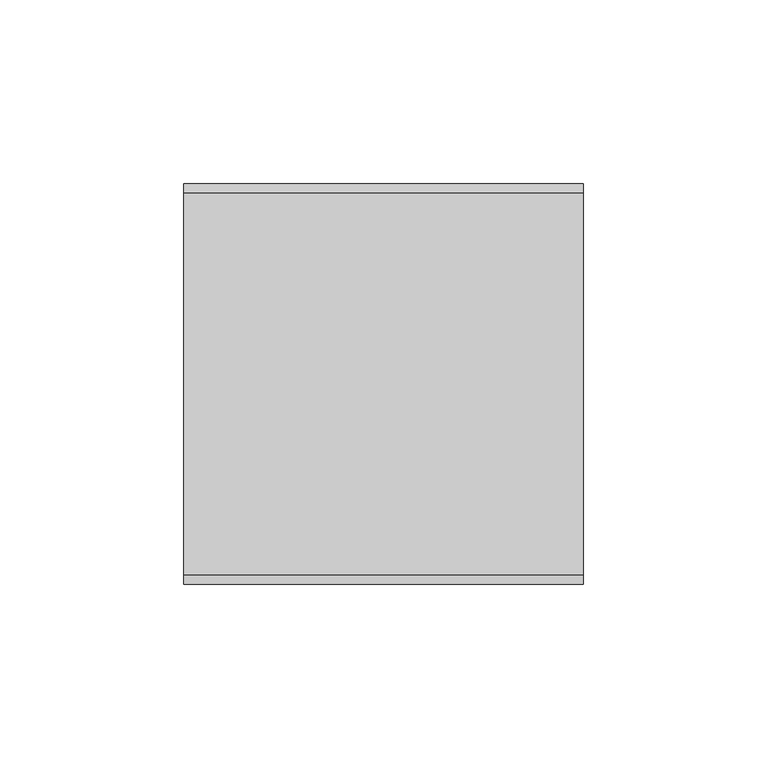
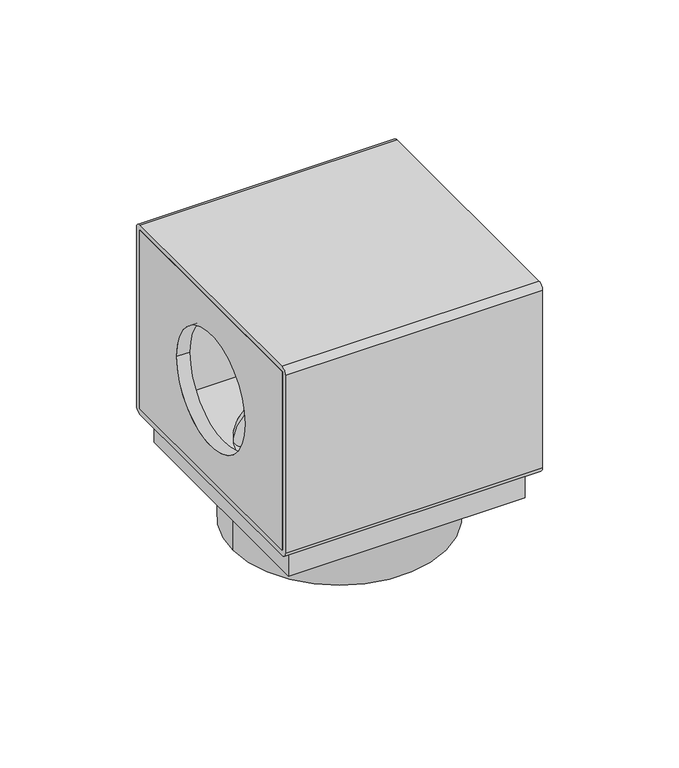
"""IFC4 building model written with IfcOpenShell, lengths in millimetres: proxy geometry, Electrical_Installation_Hager_VE-EE_Pedestal-box-2 : GB pedestal box 2 inst. fields iron gray."""

from ifc_helpers import new_model, si_unit, point, frame, frame_2d, origin, origin_with_axes, origin_2d, place, context, project, spatial, polyline, circle_curve, trimmed, segment, composite_curve, outline, extrude, source, transform, mapped, element, save
from ifc_brep_helpers import plane_surface, cylinder_surface, revolved_surface, advanced_brep


def electrical_fixtures_bc675c06(model_context):
    return source(origin(), model_context, "Body", "SolidModel", [
        extrude(outline(polyline([(52.25, 94.7), (52.25, 14.8), (-52.25, 14.8), (-52.25, 94.7), (52.25, 94.7)]), holes=[composite_curve([segment(trimmed(circle_curve(frame_2d((0.0, 54.75)), 25.0), [point((-25.0, 54.75))], [point((25.0, 54.75))], True, "CARTESIAN"), True, "CONTINUOUS"), segment(trimmed(circle_curve(frame_2d((0.0, 54.75)), 25.0), [point((25.0, 54.75))], [point((-25.0, 54.75))], True, "CARTESIAN"), True, "CONTINUOUS")], self_intersect=False)]), frame((-54.4, 0.0, 0.0), z_axis=(1.0, 0.0, 0.0), x_axis=(0.0, 1.0, 0.0)), (0.0, 0.0, 1.0), 5.5),
        extrude(outline(polyline([(52.25, 94.7), (52.25, 14.8), (-52.25, 14.8), (-52.25, 94.7), (52.25, 94.7)]), holes=[composite_curve([segment(trimmed(circle_curve(frame_2d((0.0, 54.75)), 25.0), [point((-25.0, 54.75))], [point((25.0, 54.75))], True, "CARTESIAN"), True, "CONTINUOUS"), segment(trimmed(circle_curve(frame_2d((0.0, 54.75)), 25.0), [point((25.0, 54.75))], [point((-25.0, 54.75))], True, "CARTESIAN"), True, "CONTINUOUS")], self_intersect=False)]), frame((48.9, 0.0, 0.0), z_axis=(1.0, 0.0, 0.0), x_axis=(0.0, 1.0, 0.0)), (0.0, 0.0, 1.0), 5.5),
        extrude(outline(composite_curve([segment(trimmed(circle_curve(origin_2d(), 45.0), [point((-45.0, 0.0))], [point((45.0, 0.0))], False, "CARTESIAN"), True, "CONTINUOUS"), segment(trimmed(circle_curve(origin_2d(), 45.0), [point((45.0, 0.0))], [point((-45.0, 0.0))], False, "CARTESIAN"), True, "CONTINUOUS")], self_intersect=False), holes=[composite_curve([segment(trimmed(circle_curve(origin_2d(), 27.5), [point((-27.5, 0.0))], [point((27.5, 0.0))], True, "CARTESIAN"), True, "CONTINUOUS"), segment(trimmed(circle_curve(origin_2d(), 27.5), [point((27.5, 0.0))], [point((-27.5, 0.0))], True, "CARTESIAN"), True, "CONTINUOUS")], self_intersect=False)]), frame((0.0, 0.0, -20.0), z_axis=(0.0, 0.0, 1.0), x_axis=(1.0, 0.0, 0.0)), (0.0, 0.0, 1.0), 20.0),
        advanced_brep(
        [(54.4, -52.05, 97.0), (54.4, -54.55, 94.5), (54.4, -54.55, 15.0), (54.4, -52.05, 12.5), (54.4, 52.05, 12.5), (54.4, 54.55, 15.0), (54.4, 54.55, 94.5), (54.4, 52.05, 97.0), (54.4, 52.25, 94.7), (54.4, 52.25, 14.8), (54.4, -52.25, 14.8), (54.4, -52.25, 94.7), (-54.4, -52.05, 97.0), (-54.4, 52.05, 97.0), (-54.4, 54.55, 94.5), (-54.4, 54.55, 15.0), (-54.4, 52.05, 12.5), (-54.4, -52.05, 12.5), (-54.4, -54.55, 15.0), (-54.4, -54.55, 94.5), (-54.4, 52.25, 94.7), (-54.4, -52.25, 94.7), (-54.4, -52.25, 14.8), (-54.4, 52.25, 14.8), (-39.0, 0.0, 12.5), (39.0, 0.0, 12.5), (39.0, 0.0, 14.8), (-39.0, 0.0, 14.8)],
        [
            (0, 1, circle_curve(frame((54.4, -52.05, 94.5), z_axis=(1.0, 0.0, 0.0), x_axis=(0.0, 1.0, 0.0)), 2.5)),
            (1, 2),
            (2, 3, circle_curve(frame((54.4, -52.05, 15.0), z_axis=(1.0, 0.0, 0.0), x_axis=(0.0, 1.0, 0.0)), 2.5)),
            (3, 4),
            (4, 5, circle_curve(frame((54.4, 52.05, 15.0), z_axis=(1.0, 0.0, 0.0), x_axis=(0.0, 1.0, 0.0)), 2.5)),
            (5, 6),
            (6, 7, circle_curve(frame((54.4, 52.05, 94.5), z_axis=(1.0, 0.0, 0.0), x_axis=(0.0, 1.0, 0.0)), 2.5)),
            (7, 0),
            (8, 9),
            (9, 10),
            (10, 11),
            (11, 8),
            (12, 13),
            (13, 14, circle_curve(frame((-54.4, 52.05, 94.5), z_axis=(-1.0, 0.0, 0.0), x_axis=(0.0, 1.0, 0.0)), 2.5)),
            (14, 15),
            (15, 16, circle_curve(frame((-54.4, 52.05, 15.0), z_axis=(-1.0, 0.0, 0.0), x_axis=(0.0, 1.0, 0.0)), 2.5)),
            (16, 17),
            (17, 18, circle_curve(frame((-54.4, -52.05, 15.0), z_axis=(-1.0, 0.0, 0.0), x_axis=(0.0, 1.0, 0.0)), 2.5)),
            (18, 19),
            (19, 12, circle_curve(frame((-54.4, -52.05, 94.5), z_axis=(-1.0, 0.0, 0.0), x_axis=(0.0, 1.0, 0.0)), 2.5)),
            (20, 21),
            (21, 22),
            (22, 23),
            (23, 20),
            (0, 12),
            (19, 1),
            (18, 2),
            (17, 3),
            (16, 4),
            (24, 25, circle_curve(frame((0.0, 0.0, 12.5), z_axis=(0.0, 0.0, 1.0), x_axis=(1.0, 0.0, 0.0)), 39.0)),
            (25, 24, circle_curve(frame((0.0, 0.0, 12.5), z_axis=(0.0, 0.0, 1.0), x_axis=(1.0, 0.0, 0.0)), 39.0)),
            (15, 5),
            (14, 6),
            (13, 7),
            (8, 20),
            (23, 9),
            (22, 10),
            (26, 27, circle_curve(frame((0.0, 0.0, 14.8), z_axis=(0.0, 0.0, -1.0), x_axis=(1.0, 0.0, 0.0)), 39.0)),
            (27, 26, circle_curve(frame((0.0, 0.0, 14.8), z_axis=(0.0, 0.0, -1.0), x_axis=(1.0, 0.0, 0.0)), 39.0)),
            (21, 11),
            (26, 25),
            (24, 27),
        ],
        [
            plane_surface(frame((54.4, -49.55, 94.5), z_axis=(1.0, 0.0, 0.0), x_axis=(0.0, 0.0, 1.0))),
            plane_surface(frame((-54.4, -49.55, 94.5), z_axis=(-1.0, 0.0, 0.0), x_axis=(0.0, 0.0, -1.0))),
            cylinder_surface(frame((-54.4, -52.05, 94.5), z_axis=(1.0, 0.0, 0.0), x_axis=(0.0, 1.0, 0.0)), 2.5),
            plane_surface(frame((54.4, -54.55, 94.5), z_axis=(0.0, -1.0, 0.0), x_axis=(-1.0, 0.0, 0.0))),
            cylinder_surface(frame((-54.4, -52.05, 15.0), z_axis=(1.0, 0.0, 0.0), x_axis=(0.0, 1.0, 0.0)), 2.5),
            plane_surface(frame((54.4, -52.05, 12.5), z_axis=(0.0, 0.0, -1.0), x_axis=(-1.0, 0.0, 0.0))),
            cylinder_surface(frame((-54.4, 52.05, 15.0), z_axis=(1.0, 0.0, 0.0), x_axis=(0.0, 1.0, 0.0)), 2.5),
            plane_surface(frame((54.4, 54.55, 15.0), z_axis=(0.0, 1.0, 0.0), x_axis=(-1.0, 0.0, 0.0))),
            cylinder_surface(frame((-54.4, 52.05, 94.5), z_axis=(1.0, 0.0, 0.0), x_axis=(0.0, 1.0, 0.0)), 2.5),
            plane_surface(frame((54.4, 52.05, 97.0), z_axis=(0.0, 0.0, 1.0), x_axis=(-1.0, 0.0, 0.0))),
            plane_surface(frame((54.4, 52.25, 94.7), z_axis=(0.0, -1.0, 0.0), x_axis=(-1.0, 0.0, 0.0))),
            plane_surface(frame((54.4, 52.25, 14.8), z_axis=(0.0, 0.0, 1.0), x_axis=(-1.0, 0.0, 0.0))),
            plane_surface(frame((54.4, -52.25, 14.8), z_axis=(0.0, 1.0, 0.0), x_axis=(-1.0, 0.0, 0.0))),
            plane_surface(frame((54.4, -52.25, 94.7), z_axis=(0.0, 0.0, -1.0), x_axis=(-1.0, 0.0, 0.0))),
            revolved_surface(polyline([(39.0, 0.0, 14.8), (39.0, 0.0, 12.5)]), (0.0, 0.0, 12.5), (0.0, 0.0, 1.0)),
        ],
        [
            (0, [[1, 2, 3, 4, 5, 6, 7, 8], [9, 10, 11, 12]]),
            (1, [[13, 14, 15, 16, 17, 18, 19, 20], [21, 22, 23, 24]]),
            (2, [[-1, 25, -20, 26]]),
            (3, [[-2, -26, -19, 27]]),
            (4, [[-3, -27, -18, 28]]),
            (5, [[-4, -28, -17, 29], [30, 31]]),
            (6, [[-5, -29, -16, 32]]),
            (7, [[-6, -32, -15, 33]]),
            (8, [[-7, -33, -14, 34]]),
            (9, [[-8, -34, -13, -25]]),
            (10, [[-9, 35, -24, 36]]),
            (11, [[-10, -36, -23, 37], [38, 39]]),
            (12, [[-11, -37, -22, 40]]),
            (13, [[-12, -40, -21, -35]]),
            (14, [[41, -30, 42, -38]]),
            (14, [[-41, -39, -42, -31]]),
        ],
    ),
        extrude(outline(polyline([(1.25, 52.25), (1.25, -52.25), (-1.25, -52.25), (-1.25, 52.25), (1.25, 52.25)])), frame((0.0, 0.0, 14.8), z_axis=(0.0, 0.0, 1.0), x_axis=(1.0, 0.0, 0.0)), (0.0, 0.0, 1.0), 79.9),
        extrude(outline(polyline([(50.0, -49.3), (-50.0, -49.3), (-50.0, 49.3), (50.0, 49.3), (50.0, -49.3)]), holes=[composite_curve([segment(trimmed(circle_curve(frame_2d((-28.5912964, 0.7333267)), 5.0), [point((-24.4955362, 3.6012089))], [point((-25.7234143, -3.3624335))], False, "CARTESIAN"), True, "CONTINUOUS"), segment(polyline([(-25.7234143, -3.3624335), (-34.1678222, -9.2752716)]), True, "CONTINUOUS"), segment(trimmed(circle_curve(frame_2d((-31.29994, -13.3710318)), 5.0), [point((-34.1678222, -9.2752716))], [point((-35.8979613, -15.335262))], True, "CARTESIAN"), True, "CONTINUOUS"), segment(trimmed(circle_curve(origin_2d(), 39.0363149), [point((-35.8979613, -15.335262))], [point((-26.6882584, -28.4880808))], True, "CARTESIAN"), True, "CONTINUOUS"), segment(trimmed(circle_curve(frame_2d((-23.2698699, -24.8391604)), 5.0), [point((-26.6882584, -28.4880808))], [point((-20.4019877, -28.9349206))], True, "CARTESIAN"), True, "CONTINUOUS"), segment(polyline([(-20.4019877, -28.9349206), (-11.9575798, -23.0220826)]), True, "CONTINUOUS"), segment(trimmed(circle_curve(frame_2d((-9.0896976, -27.1178428)), 5.0), [point((-11.9575798, -23.0220826))], [point((-4.9939374, -24.2499606))], False, "CARTESIAN"), True, "CONTINUOUS"), segment(polyline([(-4.9939374, -24.2499606), (3.2975997, -36.0915028)]), True, "CONTINUOUS"), segment(trimmed(circle_curve(frame_2d((7.3933599, -33.2236206)), 5.0), [point((3.2975997, -36.0915028))], [point((8.4794587, -38.1042342))], True, "CARTESIAN"), True, "CONTINUOUS"), segment(trimmed(circle_curve(origin_2d(), 39.0363149), [point((8.4794587, -38.1042342))], [point((32.906122, -21.0005004))], True, "CARTESIAN"), True, "CONTINUOUS"), segment(trimmed(circle_curve(frame_2d((28.6913131, -18.3106332)), 5.0), [point((32.906122, -21.0005004))], [point((32.7870733, -15.442751))], True, "CARTESIAN"), True, "CONTINUOUS"), segment(polyline([(32.7870733, -15.442751), (24.4955362, -3.6012089)]), True, "CONTINUOUS"), segment(trimmed(circle_curve(frame_2d((28.5912964, -0.7333267)), 5.0), [point((24.4955362, -3.6012089))], [point((25.7234143, 3.3624335))], False, "CARTESIAN"), True, "CONTINUOUS"), segment(polyline([(25.7234143, 3.3624335), (34.1678222, 9.2752716)]), True, "CONTINUOUS"), segment(trimmed(circle_curve(frame_2d((31.29994, 13.3710318)), 5.0), [point((34.1678222, 9.2752716))], [point((35.8979613, 15.335262))], True, "CARTESIAN"), True, "CONTINUOUS"), segment(trimmed(circle_curve(origin_2d(), 39.0363149), [point((35.8979613, 15.335262))], [point((26.6882584, 28.4880808))], True, "CARTESIAN"), True, "CONTINUOUS"), segment(trimmed(circle_curve(frame_2d((23.2698699, 24.8391604)), 5.0), [point((26.6882584, 28.4880808))], [point((20.4019877, 28.9349206))], True, "CARTESIAN"), True, "CONTINUOUS"), segment(polyline([(20.4019877, 28.9349206), (11.9575798, 23.0220826)]), True, "CONTINUOUS"), segment(trimmed(circle_curve(frame_2d((9.0896976, 27.1178428)), 5.0), [point((11.9575798, 23.0220826))], [point((4.9939374, 24.2499606))], False, "CARTESIAN"), True, "CONTINUOUS"), segment(polyline([(4.9939374, 24.2499606), (-3.2975997, 36.0915028)]), True, "CONTINUOUS"), segment(trimmed(circle_curve(frame_2d((-7.3933599, 33.2236206)), 5.0), [point((-3.2975997, 36.0915028))], [point((-8.4794587, 38.1042342))], True, "CARTESIAN"), True, "CONTINUOUS"), segment(trimmed(circle_curve(origin_2d(), 39.0363149), [point((-8.4794587, 38.1042342))], [point((-32.906122, 21.0005004))], True, "CARTESIAN"), True, "CONTINUOUS"), segment(trimmed(circle_curve(frame_2d((-28.6913131, 18.3106332)), 5.0), [point((-32.906122, 21.0005004))], [point((-32.7870733, 15.442751))], True, "CARTESIAN"), True, "CONTINUOUS"), segment(polyline([(-32.7870733, 15.442751), (-24.4955362, 3.6012089)]), True, "CONTINUOUS")], self_intersect=False)]), origin_with_axes(), (0.0, 0.0, 1.0), 12.5),
    ])


if __name__ == "__main__":
    model = new_model("IFC4")
    model_context = context("Model", 3, world=origin())
    ifc_project = project(units=[si_unit("LENGTHUNIT", "METRE", prefix="MILLI")], contexts=[model_context])
    site = spatial("IfcSite", under=ifc_project)
    building = spatial("IfcBuilding", under=site)
    placement = place(None, origin())
    electrical_fixtures_shape = electrical_fixtures_bc675c06(model_context)
    element("IfcBuildingElementProxy", 1, Name="Electrical_Installation_Hager_VE-EE_Pedestal-box-2 : GB pedestal box 2 inst. fields iron gray", ObjectType="Electrical_Installation_Hager_VE-EE_Pedestal-box-2 : GB pedestal box 2 inst. fields iron gray", at=placement, inside=building, context=model_context, shape_type="MappedRepresentation", body=[
        mapped(electrical_fixtures_shape, transform((0.0, 0.0, 0.0), x_axis=(1.0, 0.0, 0.0), y_axis=(0.0, 1.0, 0.0), z_axis=(0.0, 0.0, 1.0))),
    ])
    save(model, "model.ifc")
